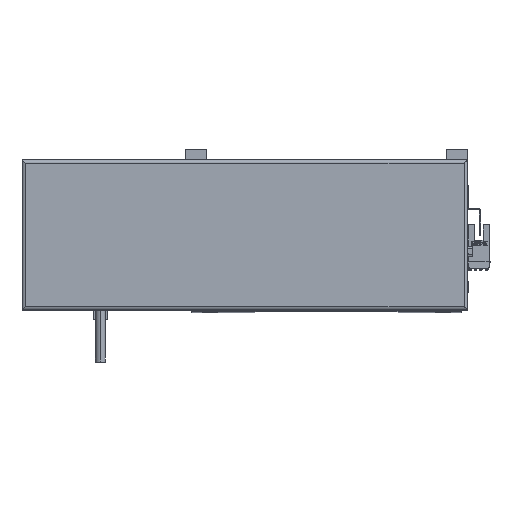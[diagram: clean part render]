
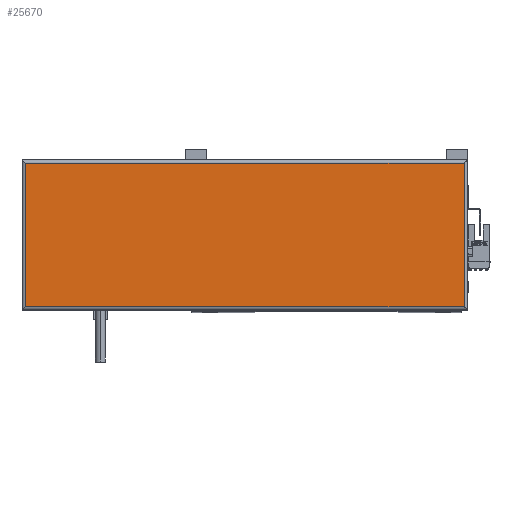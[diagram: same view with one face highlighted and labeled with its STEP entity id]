
A CAD part, top view. The second image highlights one B-rep face of the part: STEP entity #25670.
In plain terms, the highlighted planar face has unit normal (0, 0, 1).
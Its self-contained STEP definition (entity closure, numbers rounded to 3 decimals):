
#6216 = ORIENTED_EDGE ( 'NONE', *, *, #19884, .T. ) ;
#6958 = DIRECTION ( 'NONE',  ( 1., 0., 0. ) ) ;
#7269 = AXIS2_PLACEMENT_3D ( 'NONE', #10036, #34943, #6958 ) ;
#9020 = CARTESIAN_POINT ( 'NONE',  ( 265., 90., 44.8 ) ) ;
#9953 = ORIENTED_EDGE ( 'NONE', *, *, #18568, .T. ) ;
#10036 = CARTESIAN_POINT ( 'NONE',  ( 133.5, 45., 44.8 ) ) ;
#11726 = CARTESIAN_POINT ( 'NONE',  ( 265., 88., 44.8 ) ) ;
#12286 = DIRECTION ( 'NONE',  ( 1., 0., 0. ) ) ;
#13347 = LINE ( 'NONE', #17378, #20586 ) ;
#14061 = DIRECTION ( 'NONE',  ( 0., -1., 0. ) ) ;
#14492 = ORIENTED_EDGE ( 'NONE', *, *, #31487, .T. ) ;
#15453 = FACE_OUTER_BOUND ( 'NONE', #33475, .T. ) ;
#17180 = VERTEX_POINT ( 'NONE', #40344 ) ;
#17378 = CARTESIAN_POINT ( 'NONE',  ( 0., 88., 44.8 ) ) ;
#18568 = EDGE_CURVE ( 'NONE', #23891, #34601, #13347, .T. ) ;
#19884 = EDGE_CURVE ( 'NONE', #36862, #17180, #31696, .T. ) ;
#20215 = CARTESIAN_POINT ( 'NONE',  ( 2., 88., 44.8 ) ) ;
#20586 = VECTOR ( 'NONE', #21571, 1000. ) ;
#21571 = DIRECTION ( 'NONE',  ( -1., 0., 0. ) ) ;
#23360 = VECTOR ( 'NONE', #14061, 1000. ) ;
#23891 = VERTEX_POINT ( 'NONE', #11726 ) ;
#25670 = ADVANCED_FACE ( 'NONE', ( #15453 ), #27780, .T. ) ;
#26412 = CARTESIAN_POINT ( 'NONE',  ( 267., 2., 44.8 ) ) ;
#27780 = PLANE ( 'NONE',  #7269 ) ;
#28134 = EDGE_CURVE ( 'NONE', #17180, #23891, #42540, .T. ) ;
#30061 = ORIENTED_EDGE ( 'NONE', *, *, #28134, .T. ) ;
#31487 = EDGE_CURVE ( 'NONE', #34601, #36862, #37249, .T. ) ;
#31696 = LINE ( 'NONE', #26412, #40598 ) ;
#32527 = VECTOR ( 'NONE', #44943, 1000. ) ;
#33475 = EDGE_LOOP ( 'NONE', ( #30061, #9953, #14492, #6216 ) ) ;
#34601 = VERTEX_POINT ( 'NONE', #20215 ) ;
#34943 = DIRECTION ( 'NONE',  ( 0., 0., 1. ) ) ;
#36862 = VERTEX_POINT ( 'NONE', #37000 ) ;
#37000 = CARTESIAN_POINT ( 'NONE',  ( 2., 2., 44.8 ) ) ;
#37249 = LINE ( 'NONE', #42849, #23360 ) ;
#40344 = CARTESIAN_POINT ( 'NONE',  ( 265., 2., 44.8 ) ) ;
#40598 = VECTOR ( 'NONE', #12286, 1000. ) ;
#42540 = LINE ( 'NONE', #9020, #32527 ) ;
#42849 = CARTESIAN_POINT ( 'NONE',  ( 2., 0., 44.8 ) ) ;
#44943 = DIRECTION ( 'NONE',  ( 0., 1., 0. ) ) ;
